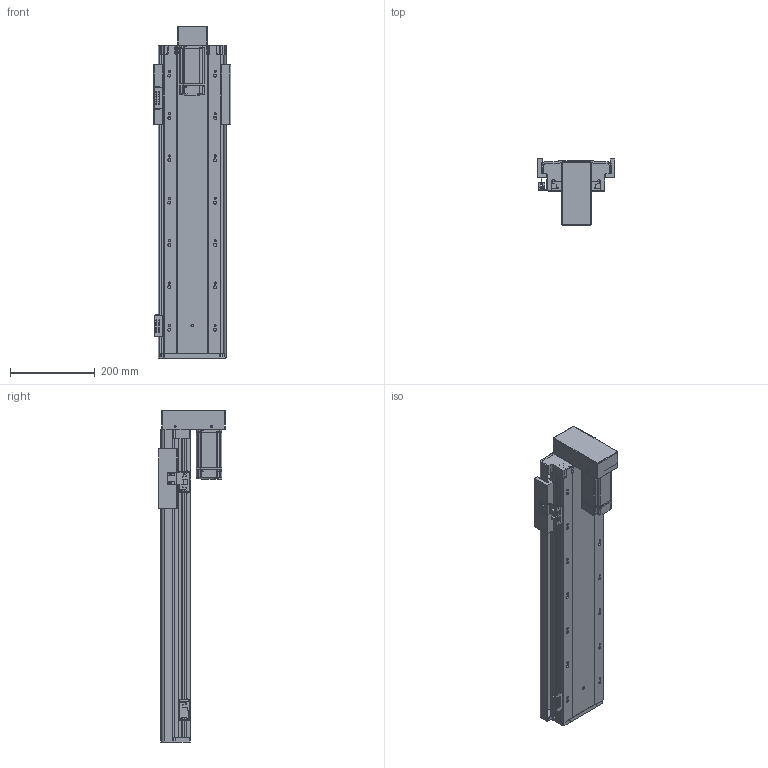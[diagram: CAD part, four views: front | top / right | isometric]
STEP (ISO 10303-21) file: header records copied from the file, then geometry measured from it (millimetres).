
FILE_DESCRIPTION (( 'STEP AP203' ), '1' );
FILE_NAME ('RY140FB-L2010-300-BK.SLDASM_500.step', '2021-02-23T02:28:46', ( '盈信电脑' ), ( '东莞市道滘镇水果街19号' ), 'SwSTEP 2.0', 'SolidWorks 2012', '' );
FILE_SCHEMA (( 'CONFIG_CONTROL_DESIGN' ));
Length unit declared in the file: millimetre
Products named in the file (17): RY140FB-L2010-300-BK.SLDASM_500; RY140-674嫖萇耀輸; RY140FB-覜茼え; RY140直线电机感应器674光电安装座; 覜茼ん674; RY140FB-300蛌殏奻裔啣-BK_500; RY140FB-20佪裝臏賑輸; RY140FB-狟殏萇儂假蚾啣; RY140狟殏萇儂欶; 15; 侂狟400W侜督萇儂; RY140FB-转折电机端支撑座(7002); RY140FB-綴裔啣; 滅袉蝶18-10; 滅袉蝶18-24; RY140FB-300蛌殏倰第菁釱-BK_500
Assembly tree (20 placements, depth 3):
  RY140FB-L2010-300-BK.SLDASM_500
    RY140FB-300蛌殏倰第菁釱-BK_500
    RY140FB-綴裔啣
    滅袉蝶18-24  x2
    滅袉蝶18-10
    RY140FB-转折电机端支撑座(7002)
    侂狟400W侜督萇儂
      15
    RY140狟殏萇儂欶
    RY140FB-狟殏萇儂假蚾啣
    RY140FB-20佪裝臏賑輸
    RY140FB-300蛌殏奻裔啣-BK_500
    RY140-674嫖萇耀輸
      覜茼ん674  x2
      RY140直线电机感应器674光电安装座
    RY140-674嫖萇耀輸
      RY140直线电机感应器674光电安装座
      覜茼ん674
    RY140FB-覜茼え
Bounding box: 183 x 156 x 784 mm (x, y, z)
Volume: 3328750.2 mm3; surface area: 1072315.2 mm2
Topology: 17 solids, 17 shells, 1722 faces, 4713 edges, 3003 vertices
Faces by surface type: cylinder 821, plane 719, cone 154, bspline 28
Entity records: 51811 total; most frequent: CARTESIAN_POINT 10417, DIRECTION 8390, ORIENTED_EDGE 8166, EDGE_CURVE 4083, AXIS2_PLACEMENT_3D 3016, VERTEX_POINT 2671, VECTOR 2358, LINE 2358
